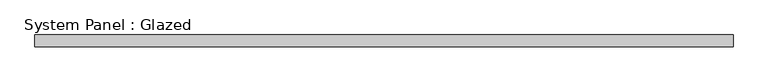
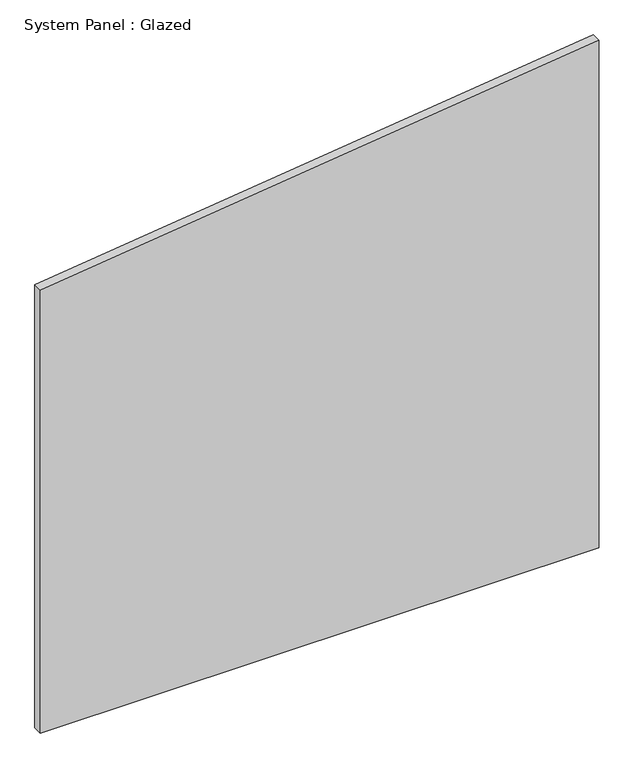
"""IFC4 building model written with IfcOpenShell, lengths in millimetres: plate geometry, System Panel : Glazed."""

from ifc_helpers import new_model, si_unit, frame, origin, place, context, project, spatial, polyline, outline, extrude, source, transform, mapped, element, save


def system_panel_glazed_e39b940b(model_context):
    return source(origin(), model_context, "Body", "SweptSolid", [
        extrude(outline(polyline([(0.0, -726.9631579), (0.0, 726.9631579), (1395.6638453, 726.9631579), (1217.1441411, -726.9631579), (0.0, -726.9631579)])), frame((0.0, 24.5, 0.0), z_axis=(0.0, 1.0, 0.0), x_axis=(0.0, 0.0, 1.0)), (0.0, 0.0, 1.0), 25.0),
    ])


if __name__ == "__main__":
    model = new_model("IFC4")
    model_context = context("Model", 3, world=origin())
    ifc_project = project(units=[si_unit("LENGTHUNIT", "METRE", prefix="MILLI")], contexts=[model_context])
    site = spatial("IfcSite", under=ifc_project)
    building = spatial("IfcBuilding", under=site)
    placement = place(None, origin())
    system_panel_glazed_shape = system_panel_glazed_e39b940b(model_context)
    element("IfcPlate", 1, ObjectType="System Panel : Glazed", at=placement, inside=building, context=model_context, shape_type="MappedRepresentation", body=[
        mapped(system_panel_glazed_shape, transform((0.0, 0.0, 0.0), x_axis=(1.0, 0.0, 0.0), y_axis=(0.0, 1.0, 0.0), z_axis=(0.0, 0.0, 1.0))),
    ])
    save(model, "model.ifc")
